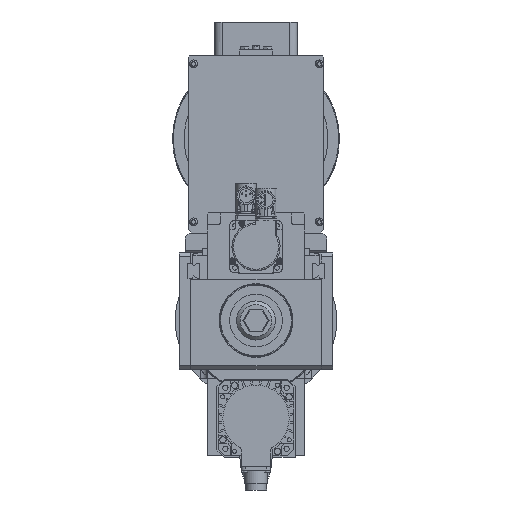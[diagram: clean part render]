
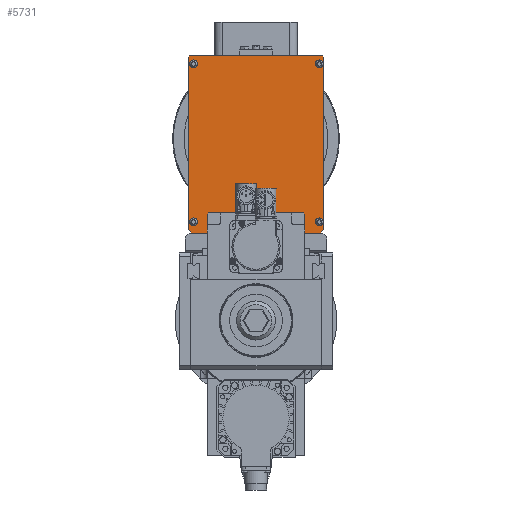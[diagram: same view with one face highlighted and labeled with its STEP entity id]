
A CAD part, left-side view. The second image highlights one B-rep face of the part: STEP entity #5731.
In plain terms, the highlighted planar face has unit normal (-1, 0, 0) as drawn and (0, 0, -1) by its records, which use the part's own axes.
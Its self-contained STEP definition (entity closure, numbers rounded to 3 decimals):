
#5731=ADVANCED_FACE('',(#9726),#9727,.T.);
#9726=FACE_OUTER_BOUND('',#15577,.T.);
#9727=PLANE('',#15578);
#15577=EDGE_LOOP('',(#27216,#27217,#27218,#27219,#27220,#27221,#27222,#27223));
#15578=AXIS2_PLACEMENT_3D('',#27224,#27225,#27226);
#27216=ORIENTED_EDGE('',*,*,#40675,.F.);
#27217=ORIENTED_EDGE('',*,*,#40680,.F.);
#27218=ORIENTED_EDGE('',*,*,#40678,.F.);
#27219=ORIENTED_EDGE('',*,*,#40674,.F.);
#27220=ORIENTED_EDGE('',*,*,#40670,.F.);
#27221=ORIENTED_EDGE('',*,*,#40681,.F.);
#27222=ORIENTED_EDGE('',*,*,#40659,.F.);
#27223=ORIENTED_EDGE('',*,*,#40682,.F.);
#27224=CARTESIAN_POINT('',(0.,234.,-517.5));
#27225=DIRECTION('',(0.,0.,-1.));
#27226=DIRECTION('',(1.,0.,0.));
#40659=EDGE_CURVE('',#47793,#47794,#47795,.T.);
#40670=EDGE_CURVE('',#47814,#47815,#47816,.T.);
#40674=EDGE_CURVE('',#47815,#47819,#47821,.T.);
#40675=EDGE_CURVE('',#47822,#47823,#47824,.T.);
#40678=EDGE_CURVE('',#47819,#47827,#47828,.T.);
#40680=EDGE_CURVE('',#47827,#47822,#47830,.T.);
#40681=EDGE_CURVE('',#47794,#47814,#47831,.T.);
#40682=EDGE_CURVE('',#47823,#47793,#47832,.T.);
#47793=VERTEX_POINT('',#60179);
#47794=VERTEX_POINT('',#60180);
#47795=LINE('',#60181,#60182);
#47814=VERTEX_POINT('',#60211);
#47815=VERTEX_POINT('',#60212);
#47816=LINE('',#60213,#60214);
#47819=VERTEX_POINT('',#60219);
#47821=LINE('',#60222,#60223);
#47822=VERTEX_POINT('',#60224);
#47823=VERTEX_POINT('',#60225);
#47824=LINE('',#60226,#60227);
#47827=VERTEX_POINT('',#60232);
#47828=LINE('',#60233,#60234);
#47830=LINE('',#60237,#60238);
#47831=LINE('',#60239,#60240);
#47832=LINE('',#60241,#60242);
#60179=CARTESIAN_POINT('',(-90.,121.,-517.5));
#60180=CARTESIAN_POINT('',(-85.,116.,-517.5));
#60181=CARTESIAN_POINT('',(-94.5,125.5,-517.5));
#60182=VECTOR('',#74587,1.);
#60211=CARTESIAN_POINT('',(85.,116.,-517.5));
#60212=CARTESIAN_POINT('',(90.,121.,-517.5));
#60213=CARTESIAN_POINT('',(94.5,125.5,-517.5));
#60214=VECTOR('',#74598,1.);
#60219=CARTESIAN_POINT('',(90.,350.,-517.5));
#60222=CARTESIAN_POINT('',(90.,352.,-517.5));
#60223=VECTOR('',#74602,1.);
#60224=CARTESIAN_POINT('',(-88.,352.,-517.5));
#60225=CARTESIAN_POINT('',(-90.,350.,-517.5));
#60226=CARTESIAN_POINT('',(-96.,344.,-517.5));
#60227=VECTOR('',#74603,1.);
#60232=CARTESIAN_POINT('',(88.,352.,-517.5));
#60233=CARTESIAN_POINT('',(96.,344.,-517.5));
#60234=VECTOR('',#74606,1.);
#60237=CARTESIAN_POINT('',(-90.,352.,-517.5));
#60238=VECTOR('',#74608,1.);
#60239=CARTESIAN_POINT('',(90.,116.,-517.5));
#60240=VECTOR('',#74609,1.);
#60241=CARTESIAN_POINT('',(-90.,116.,-517.5));
#60242=VECTOR('',#74610,1.);
#74587=DIRECTION('',(0.707,-0.707,0.));
#74598=DIRECTION('',(0.707,0.707,0.));
#74602=DIRECTION('',(0.,1.,0.));
#74603=DIRECTION('',(-0.707,-0.707,0.));
#74606=DIRECTION('',(-0.707,0.707,0.));
#74608=DIRECTION('',(-1.,0.,0.));
#74609=DIRECTION('',(1.,0.,0.));
#74610=DIRECTION('',(0.,-1.,0.));
